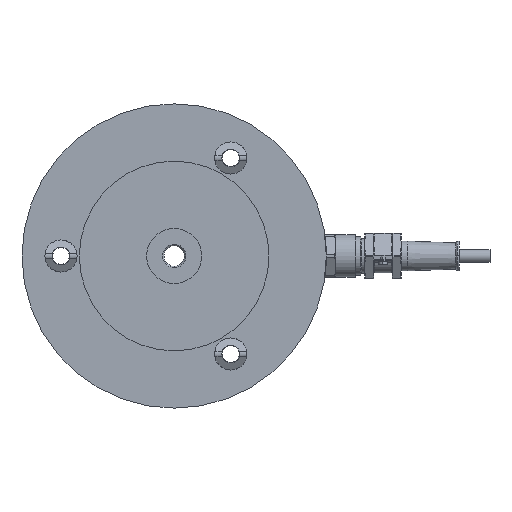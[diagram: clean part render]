
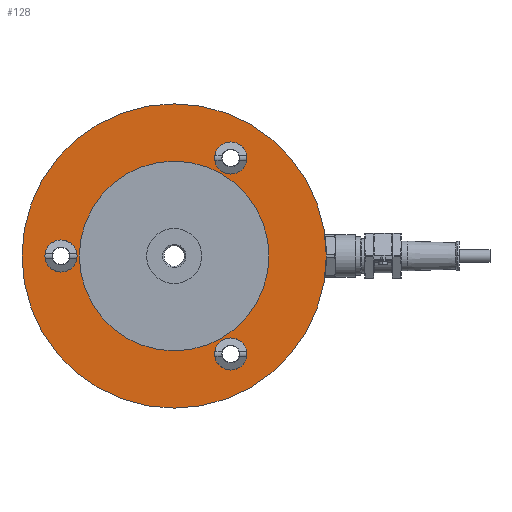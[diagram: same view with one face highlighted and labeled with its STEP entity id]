
A CAD part, front view. The second image highlights one B-rep face of the part: STEP entity #128.
In plain terms, the highlighted planar face has unit normal (0, -1, 0).
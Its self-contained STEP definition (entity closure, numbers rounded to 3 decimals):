
#128=ADVANCED_FACE('',(#403,#404,#405,#406,#407),#408,.T.);
#403=FACE_OUTER_BOUND('',#877,.T.);
#404=FACE_BOUND('',#878,.T.);
#405=FACE_BOUND('',#879,.T.);
#406=FACE_BOUND('',#880,.T.);
#407=FACE_BOUND('',#881,.T.);
#408=PLANE('',#882);
#877=EDGE_LOOP('',(#1646,#1647));
#878=EDGE_LOOP('',(#1648,#1649,#1650,#1651,#1652,#1653,#1654,#1655));
#879=EDGE_LOOP('',(#1656,#1657,#1658,#1659,#1660,#1661,#1662,#1663));
#880=EDGE_LOOP('',(#1664,#1665,#1666,#1667,#1668,#1669));
#881=EDGE_LOOP('',(#1670,#1671));
#882=AXIS2_PLACEMENT_3D('',#1672,#1673,#1674);
#1646=ORIENTED_EDGE('',*,*,#3144,.T.);
#1647=ORIENTED_EDGE('',*,*,#3160,.T.);
#1648=ORIENTED_EDGE('',*,*,#3044,.T.);
#1649=ORIENTED_EDGE('',*,*,#3182,.T.);
#1650=ORIENTED_EDGE('',*,*,#3183,.T.);
#1651=ORIENTED_EDGE('',*,*,#3036,.T.);
#1652=ORIENTED_EDGE('',*,*,#3184,.T.);
#1653=ORIENTED_EDGE('',*,*,#3048,.T.);
#1654=ORIENTED_EDGE('',*,*,#3030,.T.);
#1655=ORIENTED_EDGE('',*,*,#3185,.T.);
#1656=ORIENTED_EDGE('',*,*,#3067,.T.);
#1657=ORIENTED_EDGE('',*,*,#3186,.T.);
#1658=ORIENTED_EDGE('',*,*,#3050,.T.);
#1659=ORIENTED_EDGE('',*,*,#3187,.T.);
#1660=ORIENTED_EDGE('',*,*,#3188,.T.);
#1661=ORIENTED_EDGE('',*,*,#3065,.T.);
#1662=ORIENTED_EDGE('',*,*,#3189,.T.);
#1663=ORIENTED_EDGE('',*,*,#3056,.T.);
#1664=ORIENTED_EDGE('',*,*,#3080,.T.);
#1665=ORIENTED_EDGE('',*,*,#3190,.T.);
#1666=ORIENTED_EDGE('',*,*,#3191,.T.);
#1667=ORIENTED_EDGE('',*,*,#3192,.T.);
#1668=ORIENTED_EDGE('',*,*,#3072,.T.);
#1669=ORIENTED_EDGE('',*,*,#3193,.T.);
#1670=ORIENTED_EDGE('',*,*,#3134,.F.);
#1671=ORIENTED_EDGE('',*,*,#3181,.F.);
#1672=CARTESIAN_POINT('',(40.375,0.0,0.0));
#1673=DIRECTION('',(0.0,-1.0,0.0));
#1674=DIRECTION('',(0.0,0.0,-1.0));
#3030=EDGE_CURVE('',#3614,#3611,#3615,.T.);
#3036=EDGE_CURVE('',#3620,#3624,#3626,.T.);
#3044=EDGE_CURVE('',#3642,#3639,#3643,.T.);
#3048=EDGE_CURVE('',#3646,#3614,#3649,.T.);
#3050=EDGE_CURVE('',#3653,#3650,#3654,.T.);
#3056=EDGE_CURVE('',#3659,#3663,#3665,.T.);
#3065=EDGE_CURVE('',#3679,#3681,#3683,.T.);
#3067=EDGE_CURVE('',#3663,#3684,#3687,.T.);
#3072=EDGE_CURVE('',#3690,#3694,#3696,.T.);
#3080=EDGE_CURVE('',#3712,#3709,#3713,.T.);
#3134=EDGE_CURVE('',#3813,#3816,#3817,.T.);
#3144=EDGE_CURVE('',#3835,#3833,#3836,.T.);
#3160=EDGE_CURVE('',#3833,#3835,#3865,.T.);
#3181=EDGE_CURVE('',#3816,#3813,#3896,.T.);
#3182=EDGE_CURVE('',#3639,#3897,#3898,.T.);
#3183=EDGE_CURVE('',#3897,#3620,#3899,.T.);
#3184=EDGE_CURVE('',#3624,#3646,#3900,.T.);
#3185=EDGE_CURVE('',#3611,#3642,#3901,.T.);
#3186=EDGE_CURVE('',#3684,#3653,#3902,.T.);
#3187=EDGE_CURVE('',#3650,#3903,#3904,.T.);
#3188=EDGE_CURVE('',#3903,#3679,#3905,.T.);
#3189=EDGE_CURVE('',#3681,#3659,#3906,.T.);
#3190=EDGE_CURVE('',#3709,#3907,#3908,.T.);
#3191=EDGE_CURVE('',#3907,#3909,#3910,.T.);
#3192=EDGE_CURVE('',#3909,#3690,#3911,.T.);
#3193=EDGE_CURVE('',#3694,#3712,#3912,.T.);
#3611=VERTEX_POINT('',#4496);
#3614=VERTEX_POINT('',#4500);
#3615=CIRCLE('',#4501,5.25);
#3620=VERTEX_POINT('',#4511);
#3624=VERTEX_POINT('',#4521);
#3626=CIRCLE('',#4523,5.25);
#3639=VERTEX_POINT('',#4548);
#3642=VERTEX_POINT('',#4552);
#3643=CIRCLE('',#4553,5.25);
#3646=VERTEX_POINT('',#4556);
#3649=CIRCLE('',#4560,5.25);
#3650=VERTEX_POINT('',#4561);
#3653=VERTEX_POINT('',#4565);
#3654=CIRCLE('',#4566,5.25);
#3659=VERTEX_POINT('',#4576);
#3663=VERTEX_POINT('',#4586);
#3665=CIRCLE('',#4588,5.25);
#3679=VERTEX_POINT('',#4614);
#3681=VERTEX_POINT('',#4617);
#3683=CIRCLE('',#4619,5.25);
#3684=VERTEX_POINT('',#4620);
#3687=CIRCLE('',#4624,5.25);
#3690=VERTEX_POINT('',#4627);
#3694=VERTEX_POINT('',#4637);
#3696=CIRCLE('',#4639,5.25);
#3709=VERTEX_POINT('',#4664);
#3712=VERTEX_POINT('',#4668);
#3713=CIRCLE('',#4669,5.25);
#3813=VERTEX_POINT('',#4796);
#3816=VERTEX_POINT('',#4800);
#3817=CIRCLE('',#4801,31.0);
#3833=VERTEX_POINT('',#4821);
#3835=VERTEX_POINT('',#4824);
#3836=CIRCLE('',#4825,49.75);
#3865=CIRCLE('',#4889,49.75);
#3896=CIRCLE('',#4981,31.0);
#3897=VERTEX_POINT('',#4982);
#3898=CIRCLE('',#4983,5.25);
#3899=CIRCLE('',#4984,5.25);
#3900=CIRCLE('',#4985,5.25);
#3901=CIRCLE('',#4986,5.25);
#3902=CIRCLE('',#4987,5.25);
#3903=VERTEX_POINT('',#4988);
#3904=CIRCLE('',#4989,5.25);
#3905=CIRCLE('',#4990,5.25);
#3906=CIRCLE('',#4991,5.25);
#3907=VERTEX_POINT('',#4992);
#3908=CIRCLE('',#4993,5.25);
#3909=VERTEX_POINT('',#4994);
#3910=CIRCLE('',#4995,5.25);
#3911=CIRCLE('',#4996,5.25);
#3912=CIRCLE('',#4997,5.25);
#4496=CARTESIAN_POINT('',(13.25,0.0,-32.043));
#4500=CARTESIAN_POINT('',(13.97,0.0,-34.696));
#4501=AXIS2_PLACEMENT_3D('',#6314,#6315,#6316);
#4511=CARTESIAN_POINT('',(23.75,0.0,-32.043));
#4521=CARTESIAN_POINT('',(23.03,0.0,-34.696));
#4523=AXIS2_PLACEMENT_3D('',#6324,#6325,#6326);
#4548=CARTESIAN_POINT('',(15.875,0.0,-27.496));
#4552=CARTESIAN_POINT('',(13.97,0.0,-29.39));
#4553=AXIS2_PLACEMENT_3D('',#6336,#6337,#6338);
#4556=CARTESIAN_POINT('',(21.125,0.0,-36.59));
#4560=AXIS2_PLACEMENT_3D('',#6346,#6347,#6348);
#4561=CARTESIAN_POINT('',(13.25,0.0,32.043));
#4565=CARTESIAN_POINT('',(13.97,0.0,29.39));
#4566=AXIS2_PLACEMENT_3D('',#6350,#6351,#6352);
#4576=CARTESIAN_POINT('',(23.75,0.0,32.043));
#4586=CARTESIAN_POINT('',(23.03,0.0,29.39));
#4588=AXIS2_PLACEMENT_3D('',#6360,#6361,#6362);
#4614=CARTESIAN_POINT('',(21.125,0.0,36.59));
#4617=CARTESIAN_POINT('',(23.03,0.0,34.696));
#4619=AXIS2_PLACEMENT_3D('',#6375,#6376,#6377);
#4620=CARTESIAN_POINT('',(15.875,0.0,27.496));
#4624=AXIS2_PLACEMENT_3D('',#6379,#6380,#6381);
#4627=CARTESIAN_POINT('',(-42.25,0.0,0.));
#4637=CARTESIAN_POINT('',(-41.53,0.0,2.653));
#4639=AXIS2_PLACEMENT_3D('',#6389,#6390,#6391);
#4664=CARTESIAN_POINT('',(-31.75,0.0,0.));
#4668=CARTESIAN_POINT('',(-32.47,0.0,2.653));
#4669=AXIS2_PLACEMENT_3D('',#6401,#6402,#6403);
#4796=CARTESIAN_POINT('',(31.0,0.0,0.0));
#4800=CARTESIAN_POINT('',(-31.0,0.0,0.));
#4801=AXIS2_PLACEMENT_3D('',#6514,#6515,#6516);
#4821=CARTESIAN_POINT('',(-49.75,0.0,0.));
#4824=CARTESIAN_POINT('',(49.75,0.0,0.0));
#4825=AXIS2_PLACEMENT_3D('',#6534,#6535,#6536);
#4889=AXIS2_PLACEMENT_3D('',#6552,#6553,#6554);
#4981=AXIS2_PLACEMENT_3D('',#6583,#6584,#6585);
#4982=CARTESIAN_POINT('',(23.03,0.0,-29.39));
#4983=AXIS2_PLACEMENT_3D('',#6586,#6587,#6588);
#4984=AXIS2_PLACEMENT_3D('',#6589,#6590,#6591);
#4985=AXIS2_PLACEMENT_3D('',#6592,#6593,#6594);
#4986=AXIS2_PLACEMENT_3D('',#6595,#6596,#6597);
#4987=AXIS2_PLACEMENT_3D('',#6598,#6599,#6600);
#4988=CARTESIAN_POINT('',(13.97,0.0,34.696));
#4989=AXIS2_PLACEMENT_3D('',#6601,#6602,#6603);
#4990=AXIS2_PLACEMENT_3D('',#6604,#6605,#6606);
#4991=AXIS2_PLACEMENT_3D('',#6607,#6608,#6609);
#4992=CARTESIAN_POINT('',(-32.47,0.0,-2.653));
#4993=AXIS2_PLACEMENT_3D('',#6610,#6611,#6612);
#4994=CARTESIAN_POINT('',(-41.53,0.0,-2.653));
#4995=AXIS2_PLACEMENT_3D('',#6613,#6614,#6615);
#4996=AXIS2_PLACEMENT_3D('',#6616,#6617,#6618);
#4997=AXIS2_PLACEMENT_3D('',#6619,#6620,#6621);
#6314=CARTESIAN_POINT('',(18.5,0.0,-32.043));
#6315=DIRECTION('',(0.0,1.0,0.0));
#6316=DIRECTION('',(-0.5,0.0,0.866));
#6324=CARTESIAN_POINT('',(18.5,0.0,-32.043));
#6325=DIRECTION('',(0.0,1.0,0.0));
#6326=DIRECTION('',(-0.5,0.0,0.866));
#6336=CARTESIAN_POINT('',(18.5,0.0,-32.043));
#6337=DIRECTION('',(0.0,1.0,0.0));
#6338=DIRECTION('',(-0.5,0.0,0.866));
#6346=CARTESIAN_POINT('',(18.5,0.0,-32.043));
#6347=DIRECTION('',(0.0,1.0,0.0));
#6348=DIRECTION('',(-0.5,0.0,0.866));
#6350=CARTESIAN_POINT('',(18.5,0.0,32.043));
#6351=DIRECTION('',(0.0,1.0,0.0));
#6352=DIRECTION('',(-0.5,0.0,-0.866));
#6360=CARTESIAN_POINT('',(18.5,0.0,32.043));
#6361=DIRECTION('',(0.0,1.0,0.0));
#6362=DIRECTION('',(-0.5,0.0,-0.866));
#6375=CARTESIAN_POINT('',(18.5,0.0,32.043));
#6376=DIRECTION('',(0.0,1.0,0.0));
#6377=DIRECTION('',(-0.5,0.0,-0.866));
#6379=CARTESIAN_POINT('',(18.5,0.0,32.043));
#6380=DIRECTION('',(0.0,1.0,0.0));
#6381=DIRECTION('',(-0.5,0.0,-0.866));
#6389=CARTESIAN_POINT('',(-37.0,0.0,0.0));
#6390=DIRECTION('',(0.0,1.0,0.0));
#6391=DIRECTION('',(1.0,0.0,0.0));
#6401=CARTESIAN_POINT('',(-37.0,0.0,0.0));
#6402=DIRECTION('',(0.0,1.0,0.0));
#6403=DIRECTION('',(1.0,0.0,0.0));
#6514=CARTESIAN_POINT('',(0.0,0.0,0.0));
#6515=DIRECTION('',(0.0,-1.0,0.0));
#6516=DIRECTION('',(1.0,0.0,0.0));
#6534=CARTESIAN_POINT('',(0.0,0.0,0.0));
#6535=DIRECTION('',(0.0,-1.0,0.0));
#6536=DIRECTION('',(1.0,0.0,0.0));
#6552=CARTESIAN_POINT('',(0.0,0.0,0.0));
#6553=DIRECTION('',(0.0,-1.0,0.0));
#6554=DIRECTION('',(1.0,0.0,0.0));
#6583=CARTESIAN_POINT('',(0.0,0.0,0.0));
#6584=DIRECTION('',(0.0,-1.0,0.0));
#6585=DIRECTION('',(1.0,0.0,0.0));
#6586=CARTESIAN_POINT('',(18.5,0.0,-32.043));
#6587=DIRECTION('',(0.0,1.0,0.0));
#6588=DIRECTION('',(-0.5,0.0,0.866));
#6589=CARTESIAN_POINT('',(18.5,0.0,-32.043));
#6590=DIRECTION('',(0.0,1.0,0.0));
#6591=DIRECTION('',(-0.5,0.0,0.866));
#6592=CARTESIAN_POINT('',(18.5,0.0,-32.043));
#6593=DIRECTION('',(0.0,1.0,0.0));
#6594=DIRECTION('',(-0.5,0.0,0.866));
#6595=CARTESIAN_POINT('',(18.5,0.0,-32.043));
#6596=DIRECTION('',(0.0,1.0,0.0));
#6597=DIRECTION('',(-0.5,0.0,0.866));
#6598=CARTESIAN_POINT('',(18.5,0.0,32.043));
#6599=DIRECTION('',(0.0,1.0,0.0));
#6600=DIRECTION('',(-0.5,0.0,-0.866));
#6601=CARTESIAN_POINT('',(18.5,0.0,32.043));
#6602=DIRECTION('',(0.0,1.0,0.0));
#6603=DIRECTION('',(-0.5,0.0,-0.866));
#6604=CARTESIAN_POINT('',(18.5,0.0,32.043));
#6605=DIRECTION('',(0.0,1.0,0.0));
#6606=DIRECTION('',(-0.5,0.0,-0.866));
#6607=CARTESIAN_POINT('',(18.5,0.0,32.043));
#6608=DIRECTION('',(0.0,1.0,0.0));
#6609=DIRECTION('',(-0.5,0.0,-0.866));
#6610=CARTESIAN_POINT('',(-37.0,0.0,0.0));
#6611=DIRECTION('',(0.0,1.0,0.0));
#6612=DIRECTION('',(1.0,0.0,0.0));
#6613=CARTESIAN_POINT('',(-37.0,0.0,0.0));
#6614=DIRECTION('',(0.0,1.0,0.0));
#6615=DIRECTION('',(1.0,0.0,0.0));
#6616=CARTESIAN_POINT('',(-37.0,0.0,0.0));
#6617=DIRECTION('',(0.0,1.0,0.0));
#6618=DIRECTION('',(1.0,0.0,0.0));
#6619=CARTESIAN_POINT('',(-37.0,0.0,0.0));
#6620=DIRECTION('',(0.0,1.0,0.0));
#6621=DIRECTION('',(1.0,0.0,0.0));
